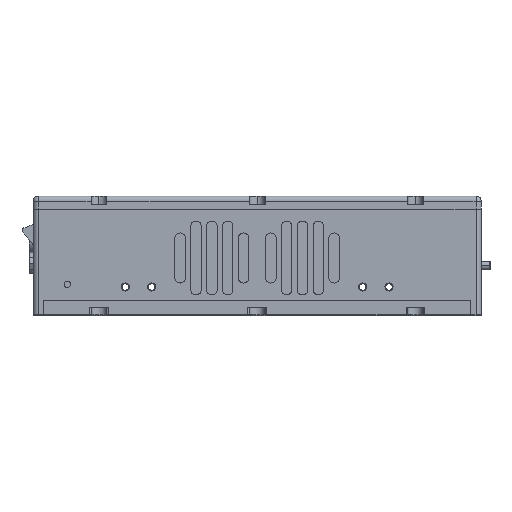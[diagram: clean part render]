
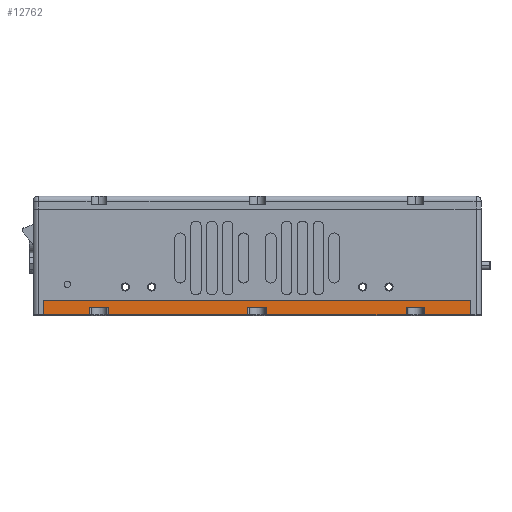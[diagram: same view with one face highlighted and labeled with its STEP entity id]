
A CAD part, left-side view. The second image highlights one B-rep face of the part: STEP entity #12762.
In plain terms, the highlighted planar face has unit normal (-1, 0, 0).
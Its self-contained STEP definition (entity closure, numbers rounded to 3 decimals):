
#41 = EDGE_CURVE ( 'NONE', #16929, #4684, #11890, .T. ) ;
#1427 = CARTESIAN_POINT ( 'NONE',  ( -144.658, 12.7, 198.5 ) ) ;
#1681 = CARTESIAN_POINT ( 'NONE',  ( -144.658, -71.8, 204. ) ) ;
#1976 = CARTESIAN_POINT ( 'NONE',  ( -144.658, 90.2, 204. ) ) ;
#2838 = FACE_OUTER_BOUND ( 'NONE', #23950, .T. ) ;
#4684 = VERTEX_POINT ( 'NONE', #19862 ) ;
#5025 = DIRECTION ( 'NONE',  ( 0., 0., 1. ) ) ;
#6090 = VERTEX_POINT ( 'NONE', #61859 ) ;
#6916 = ORIENTED_EDGE ( 'NONE', *, *, #9551, .F. ) ;
#7280 = CARTESIAN_POINT ( 'NONE',  ( -144.658, -71.8, 204. ) ) ;
#7630 = VECTOR ( 'NONE', #21964, 1000. ) ;
#7862 = CARTESIAN_POINT ( 'NONE',  ( -144.658, 90.2, 198.5 ) ) ;
#9551 = EDGE_CURVE ( 'NONE', #12392, #41981, #65055, .T. ) ;
#9970 = EDGE_CURVE ( 'NONE', #50283, #46286, #39127, .T. ) ;
#10417 = CARTESIAN_POINT ( 'NONE',  ( -144.658, -54.3, 201.4 ) ) ;
#10432 = DIRECTION ( 'NONE',  ( 0., 0., 1. ) ) ;
#10472 = DIRECTION ( 'NONE',  ( 0., -1., 0. ) ) ;
#10858 = EDGE_CURVE ( 'NONE', #12987, #6090, #61783, .T. ) ;
#11208 = CARTESIAN_POINT ( 'NONE',  ( -144.658, -71.8, 198.5 ) ) ;
#11832 = EDGE_CURVE ( 'NONE', #60161, #20541, #57003, .T. ) ;
#11890 = LINE ( 'NONE', #57236, #54944 ) ;
#11995 = VECTOR ( 'NONE', #16453, 1000. ) ;
#12078 = CARTESIAN_POINT ( 'NONE',  ( -144.658, 72.7, 201.4 ) ) ;
#12392 = VERTEX_POINT ( 'NONE', #19348 ) ;
#12762 = ADVANCED_FACE ( 'NONE', ( #2838 ), #38984, .F. ) ;
#12980 = CARTESIAN_POINT ( 'NONE',  ( -144.658, 90.2, 201.4 ) ) ;
#12987 = VERTEX_POINT ( 'NONE', #7862 ) ;
#13031 = LINE ( 'NONE', #14769, #39624 ) ;
#13609 = LINE ( 'NONE', #55719, #58247 ) ;
#14106 = EDGE_CURVE ( 'NONE', #42471, #27317, #15261, .T. ) ;
#14769 = CARTESIAN_POINT ( 'NONE',  ( -144.658, 65.7, 204. ) ) ;
#15261 = LINE ( 'NONE', #49245, #47276 ) ;
#16453 = DIRECTION ( 'NONE',  ( 0., -1., 0. ) ) ;
#16626 = ORIENTED_EDGE ( 'NONE', *, *, #31892, .T. ) ;
#16744 = LINE ( 'NONE', #1976, #58978 ) ;
#16892 = CARTESIAN_POINT ( 'NONE',  ( -144.658, -47.3, 204. ) ) ;
#16929 = VERTEX_POINT ( 'NONE', #33854 ) ;
#16988 = ORIENTED_EDGE ( 'NONE', *, *, #26461, .F. ) ;
#17088 = EDGE_CURVE ( 'NONE', #19975, #28845, #44656, .T. ) ;
#17884 = CARTESIAN_POINT ( 'NONE',  ( -144.658, 5.7, 201.4 ) ) ;
#18443 = CARTESIAN_POINT ( 'NONE',  ( -144.658, 90.2, 204. ) ) ;
#19348 = CARTESIAN_POINT ( 'NONE',  ( -144.658, 65.7, 201.4 ) ) ;
#19862 = CARTESIAN_POINT ( 'NONE',  ( -144.658, -47.3, 198.5 ) ) ;
#19922 = LINE ( 'NONE', #16892, #63788 ) ;
#19975 = VERTEX_POINT ( 'NONE', #51492 ) ;
#20186 = DIRECTION ( 'NONE',  ( 0., 0., -1. ) ) ;
#20541 = VERTEX_POINT ( 'NONE', #11208 ) ;
#21762 = VECTOR ( 'NONE', #64915, 1000. ) ;
#21964 = DIRECTION ( 'NONE',  ( 0., 0., -1. ) ) ;
#22479 = CARTESIAN_POINT ( 'NONE',  ( -144.658, 12.7, 201.4 ) ) ;
#23950 = EDGE_LOOP ( 'NONE', ( #26069, #27518, #6916, #16626, #57909, #54512, #52229, #46083, #55181, #37593, #16988, #53627, #27544, #45438, #41293, #40559 ) ) ;
#23988 = VECTOR ( 'NONE', #63604, 1000. ) ;
#24239 = AXIS2_PLACEMENT_3D ( 'NONE', #18443, #43988, #47942 ) ;
#24979 = CARTESIAN_POINT ( 'NONE',  ( -144.658, 72.7, 204. ) ) ;
#25212 = CARTESIAN_POINT ( 'NONE',  ( -144.658, 90.2, 198.5 ) ) ;
#25225 = EDGE_CURVE ( 'NONE', #4684, #52655, #19922, .T. ) ;
#26069 = ORIENTED_EDGE ( 'NONE', *, *, #10858, .T. ) ;
#26251 = CARTESIAN_POINT ( 'NONE',  ( -144.658, -54.3, 198.5 ) ) ;
#26461 = EDGE_CURVE ( 'NONE', #50283, #52655, #31614, .T. ) ;
#26932 = CARTESIAN_POINT ( 'NONE',  ( -144.658, 90.2, 204. ) ) ;
#27145 = DIRECTION ( 'NONE',  ( 0., 0., 1. ) ) ;
#27317 = VERTEX_POINT ( 'NONE', #22479 ) ;
#27518 = ORIENTED_EDGE ( 'NONE', *, *, #63188, .T. ) ;
#27544 = ORIENTED_EDGE ( 'NONE', *, *, #60474, .T. ) ;
#28845 = VERTEX_POINT ( 'NONE', #1427 ) ;
#31614 = LINE ( 'NONE', #12980, #48768 ) ;
#31892 = EDGE_CURVE ( 'NONE', #12392, #19975, #13031, .T. ) ;
#32029 = VERTEX_POINT ( 'NONE', #56092 ) ;
#32437 = DIRECTION ( 'NONE',  ( 0., 1., 0. ) ) ;
#32785 = VECTOR ( 'NONE', #45920, 1000. ) ;
#33106 = EDGE_CURVE ( 'NONE', #42471, #16929, #52139, .T. ) ;
#33647 = VECTOR ( 'NONE', #20186, 1000. ) ;
#33745 = VECTOR ( 'NONE', #10472, 1000. ) ;
#33854 = CARTESIAN_POINT ( 'NONE',  ( -144.658, 5.7, 198.5 ) ) ;
#37593 = ORIENTED_EDGE ( 'NONE', *, *, #25225, .T. ) ;
#38984 = PLANE ( 'NONE',  #24239 ) ;
#39127 = LINE ( 'NONE', #54099, #33647 ) ;
#39624 = VECTOR ( 'NONE', #45293, 1000. ) ;
#39734 = CARTESIAN_POINT ( 'NONE',  ( -144.658, 90.2, 201.4 ) ) ;
#40406 = CARTESIAN_POINT ( 'NONE',  ( -144.658, 90.2, 198.5 ) ) ;
#40519 = EDGE_CURVE ( 'NONE', #32029, #12987, #16744, .T. ) ;
#40559 = ORIENTED_EDGE ( 'NONE', *, *, #40519, .T. ) ;
#41293 = ORIENTED_EDGE ( 'NONE', *, *, #54664, .F. ) ;
#41981 = VERTEX_POINT ( 'NONE', #12078 ) ;
#42471 = VERTEX_POINT ( 'NONE', #17884 ) ;
#43988 = DIRECTION ( 'NONE',  ( 1., 0., 0. ) ) ;
#44656 = LINE ( 'NONE', #40406, #33745 ) ;
#45293 = DIRECTION ( 'NONE',  ( 0., 0., -1. ) ) ;
#45438 = ORIENTED_EDGE ( 'NONE', *, *, #11832, .F. ) ;
#45664 = CARTESIAN_POINT ( 'NONE',  ( -144.658, -47.3, 201.4 ) ) ;
#45920 = DIRECTION ( 'NONE',  ( 0., -1., 0. ) ) ;
#46083 = ORIENTED_EDGE ( 'NONE', *, *, #33106, .T. ) ;
#46286 = VERTEX_POINT ( 'NONE', #26251 ) ;
#47274 = VECTOR ( 'NONE', #5025, 1000. ) ;
#47276 = VECTOR ( 'NONE', #54767, 1000. ) ;
#47942 = DIRECTION ( 'NONE',  ( 0., 1., 0. ) ) ;
#48319 = LINE ( 'NONE', #50391, #21762 ) ;
#48768 = VECTOR ( 'NONE', #32437, 1000. ) ;
#49245 = CARTESIAN_POINT ( 'NONE',  ( -144.658, 90.2, 201.4 ) ) ;
#50283 = VERTEX_POINT ( 'NONE', #10417 ) ;
#50391 = CARTESIAN_POINT ( 'NONE',  ( -144.658, 90.2, 198.5 ) ) ;
#50424 = DIRECTION ( 'NONE',  ( 0., 1., 0. ) ) ;
#51492 = CARTESIAN_POINT ( 'NONE',  ( -144.658, 65.7, 198.5 ) ) ;
#52139 = LINE ( 'NONE', #58536, #23988 ) ;
#52229 = ORIENTED_EDGE ( 'NONE', *, *, #14106, .F. ) ;
#52655 = VERTEX_POINT ( 'NONE', #45664 ) ;
#53627 = ORIENTED_EDGE ( 'NONE', *, *, #9970, .T. ) ;
#54099 = CARTESIAN_POINT ( 'NONE',  ( -144.658, -54.3, 204. ) ) ;
#54512 = ORIENTED_EDGE ( 'NONE', *, *, #63752, .T. ) ;
#54664 = EDGE_CURVE ( 'NONE', #32029, #60161, #55808, .T. ) ;
#54767 = DIRECTION ( 'NONE',  ( 0., 1., 0. ) ) ;
#54944 = VECTOR ( 'NONE', #62301, 1000. ) ;
#55181 = ORIENTED_EDGE ( 'NONE', *, *, #41, .T. ) ;
#55719 = CARTESIAN_POINT ( 'NONE',  ( -144.658, 12.7, 204. ) ) ;
#55808 = LINE ( 'NONE', #26932, #11995 ) ;
#56092 = CARTESIAN_POINT ( 'NONE',  ( -144.658, 90.2, 204. ) ) ;
#57003 = LINE ( 'NONE', #7280, #7630 ) ;
#57236 = CARTESIAN_POINT ( 'NONE',  ( -144.658, 90.2, 198.5 ) ) ;
#57343 = DIRECTION ( 'NONE',  ( 0., 0., -1. ) ) ;
#57909 = ORIENTED_EDGE ( 'NONE', *, *, #17088, .T. ) ;
#58247 = VECTOR ( 'NONE', #10432, 1000. ) ;
#58536 = CARTESIAN_POINT ( 'NONE',  ( -144.658, 5.7, 204. ) ) ;
#58978 = VECTOR ( 'NONE', #57343, 1000. ) ;
#60161 = VERTEX_POINT ( 'NONE', #1681 ) ;
#60474 = EDGE_CURVE ( 'NONE', #46286, #20541, #48319, .T. ) ;
#60654 = LINE ( 'NONE', #24979, #47274 ) ;
#61783 = LINE ( 'NONE', #25212, #32785 ) ;
#61859 = CARTESIAN_POINT ( 'NONE',  ( -144.658, 72.7, 198.5 ) ) ;
#61905 = VECTOR ( 'NONE', #50424, 1000. ) ;
#62301 = DIRECTION ( 'NONE',  ( 0., -1., 0. ) ) ;
#63188 = EDGE_CURVE ( 'NONE', #6090, #41981, #60654, .T. ) ;
#63604 = DIRECTION ( 'NONE',  ( 0., 0., -1. ) ) ;
#63752 = EDGE_CURVE ( 'NONE', #28845, #27317, #13609, .T. ) ;
#63788 = VECTOR ( 'NONE', #27145, 1000. ) ;
#64915 = DIRECTION ( 'NONE',  ( 0., -1., 0. ) ) ;
#65055 = LINE ( 'NONE', #39734, #61905 ) ;
